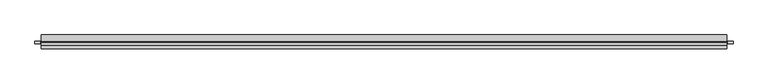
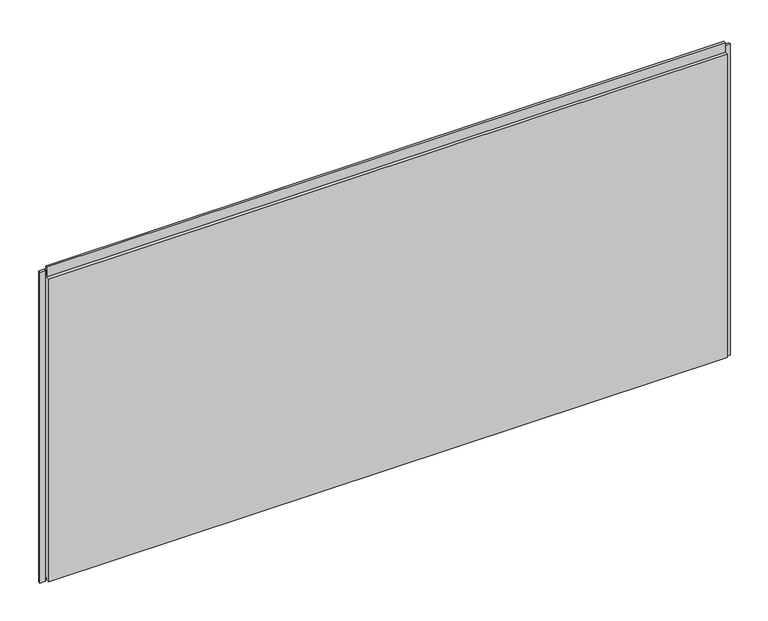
"""IFC4 building model written with IfcOpenShell, lengths in millimetres: plate geometry, Trimo_Qbiss Screen_Normal Panel-HORIZONTAL : HR - B."""

from ifc_helpers import new_model, si_unit, frame, origin, place, context, project, spatial, polyline, outline, extrude, source, transform, mapped, element, save


def plate_15c921bf(model_context):
    return source(origin(), model_context, "Body", "SweptSolid", [
        extrude(outline(polyline([(-1240.5, 76.5978162), (-1240.5, 67.8978162), (-1259.5, 67.8978162), (-1259.5, 76.5978162), (-1240.5, 76.5978162)])), frame((0.0, 0.0, -1.0), z_axis=(0.0, 0.0, 1.0), x_axis=(1.0, 0.0, 0.0)), (0.0, 0.0, 1.0), 1200.0),
        extrude(outline(polyline([(1240.5, 67.8978162), (1240.5, 76.5978162), (1259.5, 76.5978162), (1259.5, 67.8978162), (1240.5, 67.8978162)])), frame((0.0, 0.0, -1.0), z_axis=(0.0, 0.0, 1.0), x_axis=(1.0, 0.0, 0.0)), (0.0, 0.0, 1.0), 1200.0),
        extrude(outline(polyline([(1237.5, 76.0), (1237.5, 71.0), (-1237.5, 71.0), (-1237.5, 76.0), (1237.5, 76.0)])), frame((0.0, 0.0, 1178.0), z_axis=(0.0, 0.0, 1.0), x_axis=(1.0, 0.0, 0.0)), (0.0, 0.0, 1.0), 21.0),
        extrude(outline(polyline([(71.0, 1177.0), (100.0, 1177.0), (100.0, 0.0), (72.0, 0.0), (72.0, 15.5), (62.0, 15.5), (62.0, 7.0), (50.0, 7.0), (50.0, 1177.0), (63.0, 1177.0), (63.0, 1214.5), (71.0, 1214.5), (71.0, 1177.0)])), frame((-1237.5, 0.0, 0.0), z_axis=(1.0, 0.0, 0.0), x_axis=(0.0, 1.0, 0.0)), (0.0, 0.0, 1.0), 2475.0),
    ])


if __name__ == "__main__":
    model = new_model("IFC4")
    model_context = context("Model", 3, world=origin())
    ifc_project = project(units=[si_unit("LENGTHUNIT", "METRE", prefix="MILLI")], contexts=[model_context])
    site = spatial("IfcSite", under=ifc_project)
    building = spatial("IfcBuilding", under=site)
    placement = place(None, origin())
    plate_shape = plate_15c921bf(model_context)
    element("IfcPlate", 1, ObjectType="Trimo_Qbiss Screen_Normal Panel-HORIZONTAL : HR - B", at=placement, inside=building, context=model_context, shape_type="MappedRepresentation", body=[
        mapped(plate_shape, transform((0.0, 0.0, 0.0), x_axis=(1.0, 0.0, 0.0), y_axis=(0.0, 1.0, 0.0), z_axis=(0.0, 0.0, 1.0))),
    ])
    save(model, "model.ifc")
